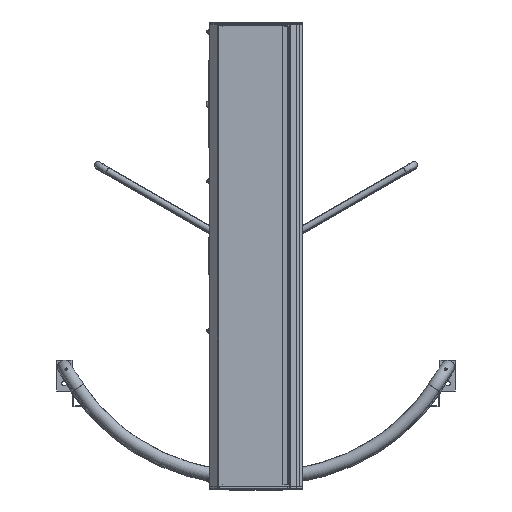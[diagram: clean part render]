
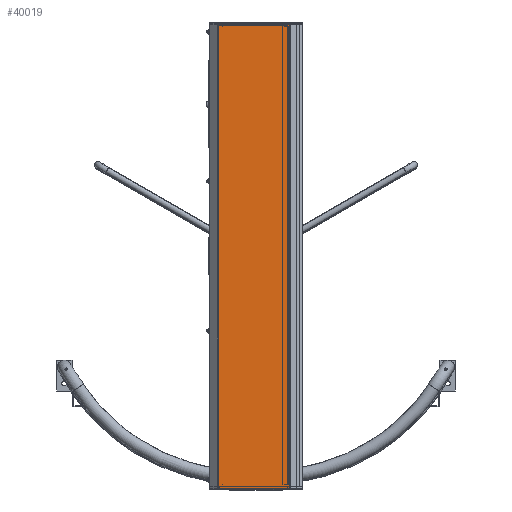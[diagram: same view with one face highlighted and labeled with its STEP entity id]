
A CAD part, top view. The second image highlights one B-rep face of the part: STEP entity #40019.
In plain terms, the highlighted planar face has unit normal (0, 0, 1).
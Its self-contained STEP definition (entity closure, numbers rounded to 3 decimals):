
#3397=CIRCLE('',#44265,0.05);
#3399=CIRCLE('',#44268,0.05);
#12431=ORIENTED_EDGE('',*,*,#17958,.F.);
#12432=ORIENTED_EDGE('',*,*,#17925,.T.);
#12433=ORIENTED_EDGE('',*,*,#17955,.F.);
#12434=ORIENTED_EDGE('',*,*,#17884,.T.);
#12435=ORIENTED_EDGE('',*,*,#17953,.F.);
#12436=ORIENTED_EDGE('',*,*,#17901,.T.);
#12437=ORIENTED_EDGE('',*,*,#17959,.F.);
#12438=ORIENTED_EDGE('',*,*,#17858,.T.);
#12439=ORIENTED_EDGE('',*,*,#17835,.F.);
#12440=ORIENTED_EDGE('',*,*,#17833,.F.);
#17833=EDGE_CURVE('',#21636,#21636,#3397,.T.);
#17835=EDGE_CURVE('',#21638,#21638,#3399,.T.);
#17858=EDGE_CURVE('',#21660,#21661,#24238,.T.);
#17884=EDGE_CURVE('',#21684,#21685,#24260,.T.);
#17901=EDGE_CURVE('',#21689,#21668,#24272,.T.);
#17925=EDGE_CURVE('',#21665,#21692,#24291,.T.);
#17953=EDGE_CURVE('',#21689,#21685,#24315,.T.);
#17955=EDGE_CURVE('',#21684,#21692,#24317,.T.);
#17958=EDGE_CURVE('',#21665,#21661,#24320,.T.);
#17959=EDGE_CURVE('',#21660,#21668,#24321,.T.);
#21636=VERTEX_POINT('',#88735);
#21638=VERTEX_POINT('',#88740);
#21660=VERTEX_POINT('',#88791);
#21661=VERTEX_POINT('',#88792);
#21665=VERTEX_POINT('',#88802);
#21668=VERTEX_POINT('',#88809);
#21684=VERTEX_POINT('',#88847);
#21685=VERTEX_POINT('',#88848);
#21689=VERTEX_POINT('',#88858);
#21692=VERTEX_POINT('',#88865);
#24238=LINE('',#88790,#26644);
#24260=LINE('',#88846,#26666);
#24272=LINE('',#88881,#26678);
#24291=LINE('',#88921,#26697);
#24315=LINE('',#88969,#26721);
#24317=LINE('',#88972,#26723);
#24320=LINE('',#88980,#26726);
#24321=LINE('',#88981,#26727);
#26644=VECTOR('',#54256,1000.);
#26666=VECTOR('',#54298,1000.);
#26678=VECTOR('',#54328,1000.);
#26697=VECTOR('',#54367,1000.);
#26721=VECTOR('',#54419,1000.);
#26723=VECTOR('',#54423,1000.);
#26726=VECTOR('',#54436,1000.);
#26727=VECTOR('',#54437,1000.);
#30324=EDGE_LOOP('',(#12431,#12432,#12433,#12434,#12435,#12436,#12437,#12438));
#30325=EDGE_LOOP('',(#12439));
#30326=EDGE_LOOP('',(#12440));
#34297=FACE_BOUND('',#30324,.T.);
#34298=FACE_BOUND('',#30325,.T.);
#34299=FACE_BOUND('',#30326,.T.);
#36162=PLANE('',#44325);
#40019=ADVANCED_FACE('',(#34297,#34298,#34299),#36162,.F.);
#44265=AXIS2_PLACEMENT_3D('',#88734,#54212,#54213);
#44268=AXIS2_PLACEMENT_3D('',#88739,#54218,#54219);
#44325=AXIS2_PLACEMENT_3D('',#88979,#54434,#54435);
#54212=DIRECTION('',(0.,0.,1.));
#54213=DIRECTION('',(0.,-1.,0.));
#54218=DIRECTION('',(0.,0.,1.));
#54219=DIRECTION('',(0.,-1.,0.));
#54256=DIRECTION('',(-1.,0.,0.));
#54298=DIRECTION('',(1.,0.,0.));
#54328=DIRECTION('',(0.,1.,0.));
#54367=DIRECTION('',(0.,-1.,0.));
#54419=DIRECTION('',(-1.,0.,0.));
#54423=DIRECTION('',(-1.,0.,0.));
#54434=DIRECTION('',(0.,0.,-1.));
#54435=DIRECTION('',(1.,0.,0.));
#54436=DIRECTION('',(1.,0.,0.));
#54437=DIRECTION('',(1.,0.,0.));
#88734=CARTESIAN_POINT('',(-108.662,-27.,2219.988));
#88735=CARTESIAN_POINT('',(-108.662,-27.05,2219.988));
#88739=CARTESIAN_POINT('',(-108.662,1451.,2219.988));
#88740=CARTESIAN_POINT('',(-108.662,1450.95,2219.988));
#88790=CARTESIAN_POINT('',(107.128,1463.5,2219.988));
#88791=CARTESIAN_POINT('',(107.128,1463.5,2219.988));
#88792=CARTESIAN_POINT('',(-121.489,1463.5,2219.988));
#88802=CARTESIAN_POINT('',(-121.491,1463.5,2219.988));
#88809=CARTESIAN_POINT('',(107.13,1463.5,2219.988));
#88846=CARTESIAN_POINT('',(-121.489,-39.5,2219.988));
#88847=CARTESIAN_POINT('',(-121.489,-39.5,2219.988));
#88848=CARTESIAN_POINT('',(107.128,-39.5,2219.988));
#88858=CARTESIAN_POINT('',(107.13,-39.5,2219.988));
#88865=CARTESIAN_POINT('',(-121.491,-39.5,2219.988));
#88881=CARTESIAN_POINT('',(107.13,-41.5,2219.988));
#88921=CARTESIAN_POINT('',(-121.491,1465.5,2219.988));
#88969=CARTESIAN_POINT('',(-121.489,-39.5,2219.988));
#88972=CARTESIAN_POINT('',(-121.489,-39.5,2219.988));
#88979=CARTESIAN_POINT('',(-122.274,-41.5,2219.988));
#88980=CARTESIAN_POINT('',(107.128,1463.5,2219.988));
#88981=CARTESIAN_POINT('',(107.128,1463.5,2219.988));
